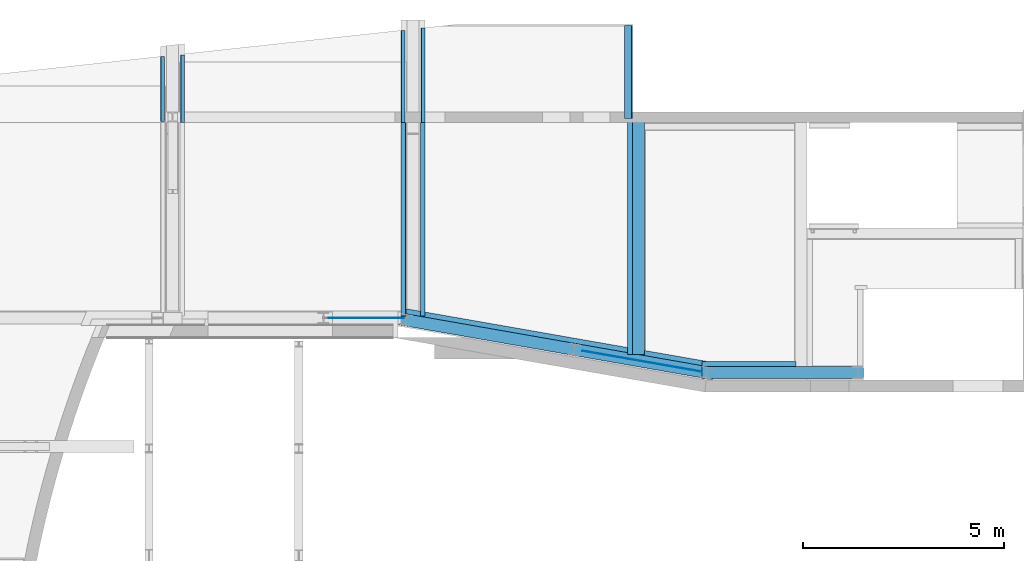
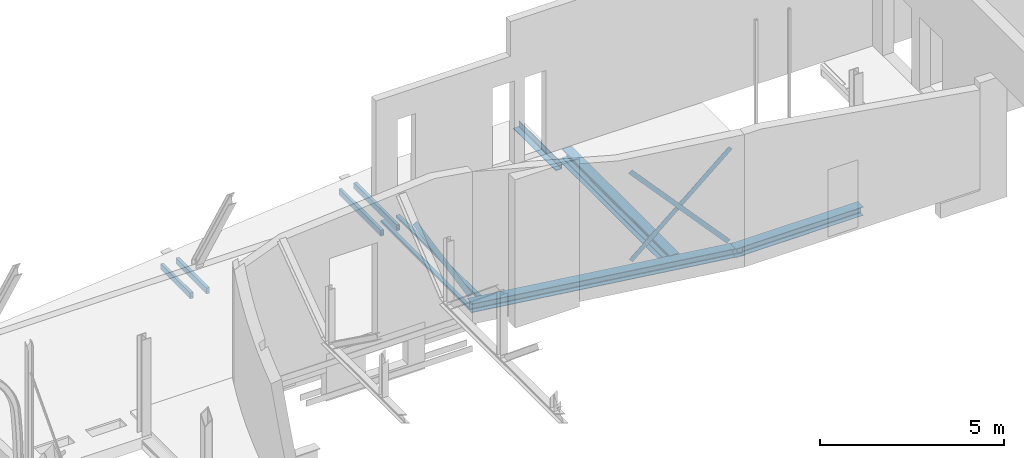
# One storey, part 25 of 38: 13 beams.
"""IFC2X3 building model written with IfcOpenShell, lengths in millimetres."""

from ifc_helpers import new_model, entity, si_unit, converted_unit, derived_unit, direction, frame, frame_2d, origin, place, context, subcontext, project, spatial, polyline, circle_curve, parameter, trimmed, segment, composite_curve, rectangle, i_section, outline, extrude, source, transform, mapped, material, material_list, type_object, type_shapes, element, save


model = new_model("IFC2X3")

# Units and contexts
model_context = context("Model", 3, precision=0.01, world=origin(), true_north=direction((6.12303176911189e-17, 1.0)))
body_context = subcontext(model_context, "Body", "Model", "MODEL_VIEW")
ifc_project = project(units=[si_unit("LENGTHUNIT", "METRE", prefix="MILLI"), si_unit("AREAUNIT", "SQUARE_METRE", prefix="MILLI"), si_unit("VOLUMEUNIT", "CUBIC_METRE"), converted_unit("PLANEANGLEUNIT", "DEGREE", entity("IfcRatioMeasure", 0.0174532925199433), si_unit("PLANEANGLEUNIT", "RADIAN"), dimensions=[0, 0, 0, 0, 0, 0, 0]), si_unit("MASSUNIT", "GRAM", prefix="KILO"), derived_unit("MASSDENSITYUNIT", [(si_unit("MASSUNIT", "GRAM", prefix="KILO"), 1), (si_unit("LENGTHUNIT", "METRE"), -3)]), derived_unit("MOMENTOFINERTIAUNIT", [(si_unit("LENGTHUNIT", "METRE"), 4)]), si_unit("TIMEUNIT", "SECOND"), si_unit("FREQUENCYUNIT", "HERTZ"), si_unit("THERMODYNAMICTEMPERATUREUNIT", "DEGREE_CELSIUS"), derived_unit("THERMALTRANSMITTANCEUNIT", [(si_unit("MASSUNIT", "GRAM", prefix="KILO"), 1), (si_unit("THERMODYNAMICTEMPERATUREUNIT", "KELVIN"), -1), (si_unit("TIMEUNIT", "SECOND"), -3)]), derived_unit("VOLUMETRICFLOWRATEUNIT", [(si_unit("LENGTHUNIT", "METRE"), 3), (si_unit("TIMEUNIT", "SECOND"), -1)]), si_unit("ELECTRICCURRENTUNIT", "AMPERE"), si_unit("ELECTRICVOLTAGEUNIT", "VOLT"), si_unit("POWERUNIT", "WATT"), si_unit("FORCEUNIT", "NEWTON", prefix="KILO"), si_unit("ILLUMINANCEUNIT", "LUX"), si_unit("LUMINOUSFLUXUNIT", "LUMEN"), si_unit("LUMINOUSINTENSITYUNIT", "CANDELA"), derived_unit("USERDEFINED", [(si_unit("MASSUNIT", "GRAM", prefix="KILO"), -1), (si_unit("LENGTHUNIT", "METRE"), -2), (si_unit("TIMEUNIT", "SECOND"), 3), (si_unit("LUMINOUSFLUXUNIT", "LUMEN"), 1)]), derived_unit("LINEARVELOCITYUNIT", [(si_unit("LENGTHUNIT", "METRE"), 1), (si_unit("TIMEUNIT", "SECOND"), -1)]), si_unit("PRESSUREUNIT", "PASCAL"), derived_unit("USERDEFINED", [(si_unit("LENGTHUNIT", "METRE"), -2), (si_unit("MASSUNIT", "GRAM", prefix="KILO"), 1), (si_unit("TIMEUNIT", "SECOND"), -2)]), derived_unit("LINEARFORCEUNIT", [(si_unit("MASSUNIT", "GRAM", prefix="KILO"), 1), (si_unit("LENGTHUNIT", "METRE"), 1), (si_unit("TIMEUNIT", "SECOND"), -2), (si_unit("LENGTHUNIT", "METRE"), -1)]), derived_unit("PLANARFORCEUNIT", [(si_unit("MASSUNIT", "GRAM", prefix="KILO"), 1), (si_unit("LENGTHUNIT", "METRE"), 1), (si_unit("TIMEUNIT", "SECOND"), -2), (si_unit("LENGTHUNIT", "METRE"), -2)])], contexts=[model_context])

# Site, building, storey
site_placement = place(None, origin())
site = spatial("IfcSite", under=ifc_project, at=site_placement, Name="Theater aan de Parade", CompositionType="ELEMENT")
building_placement = place(site_placement, origin())
building = spatial("IfcBuilding", under=site, at=building_placement, Name="Theater aan de Parade", CompositionType="ELEMENT")
storey_placement = place(building_placement, frame((0.0, 0.0, 12480.0)))
storey = spatial("IfcBuildingStorey", under=building, at=storey_placement, Name="03 derde verdieping", CompositionType="ELEMENT", Elevation=12480.0)

# Beams
ifc_material_1 = material(Name="00_PBT_MAT_staal_S355")
ifc_material_2 = material(Name="00_PBT_MAT_Lucht")
ifc_material_list_1 = material_list([ifc_material_2, ifc_material_1])
beam_type_1 = type_object("IfcBeamType", Name="28_PBT_SF_staal_H-profiel_met_ondergelaste_strip (void):S355_HE300A + ondergelaste strip d=12", PredefinedType="BEAM", material=ifc_material_list_1)
shared_shape_1 = source(origin(), body_context, "Body", "SweptSolid", [
    extrude(outline(composite_curve([segment(polyline([(131.0, -150.0), (145.0, -150.0)]), True, "CONTINUOUS"), segment(polyline([(145.0, -150.0), (145.0, 150.0)]), True, "CONTINUOUS"), segment(polyline([(145.0, 150.0), (131.0, 150.0)]), True, "CONTINUOUS"), segment(polyline([(131.0, 150.0), (131.0, 31.2499999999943)]), True, "CONTINUOUS"), segment(trimmed(circle_curve(frame_2d((104.0, 31.2499999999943), x_axis=(1.0, 0.0)), 27.0000000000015), [parameter(270.000000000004)], [parameter(0.0)], True, "PARAMETER"), False, "CONTINUOUS"), segment(polyline([(104.0, 4.24999999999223), (-104.0, 4.24999999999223)]), True, "CONTINUOUS"), segment(trimmed(circle_curve(frame_2d((-104.0, 31.2499999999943), x_axis=(0.0, -1.0)), 27.0000000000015), [parameter(270.000000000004)], [parameter(0.0)], True, "PARAMETER"), False, "CONTINUOUS"), segment(polyline([(-131.0, 31.2499999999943), (-131.0, 150.0)]), True, "CONTINUOUS"), segment(polyline([(-131.0, 150.0), (-145.0, 150.0)]), True, "CONTINUOUS"), segment(polyline([(-145.0, 150.0), (-145.0, -150.0)]), True, "CONTINUOUS"), segment(polyline([(-145.0, -150.0), (-131.0, -150.0)]), True, "CONTINUOUS"), segment(polyline([(-131.0, -150.0), (-131.0, -31.2500000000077)]), True, "CONTINUOUS"), segment(trimmed(circle_curve(frame_2d((-104.0, -31.2500000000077), x_axis=(-1.0, 0.0)), 27.0000000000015), [parameter(270.000000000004)], [parameter(0.0)], True, "PARAMETER"), False, "CONTINUOUS"), segment(polyline([(-104.0, -4.25000000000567), (104.0, -4.25000000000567)]), True, "CONTINUOUS"), segment(trimmed(circle_curve(frame_2d((104.0, -31.2500000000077), x_axis=(0.0, 1.0)), 27.0000000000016), [parameter(270.000000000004)], [parameter(0.0)], True, "PARAMETER"), False, "CONTINUOUS"), segment(polyline([(131.0, -31.2500000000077), (131.0, -150.0)]), True, "CONTINUOUS")], self_intersect=False)), frame((51847.3157943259, 44371.3402932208, 12360.0), z_axis=(0.985030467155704, -0.17238033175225, 0.0), x_axis=(0.0, 0.0, -1.0)), (0.0, 0.0, 1.0), 7920.00000000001),
    extrude(rectangle(XDim=9.99999999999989, YDim=419.999999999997, at=frame_2d((0.0, -4.2632564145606e-12), x_axis=(1.0, 0.0))), frame((51859.5055463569, 44435.1948932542, 12210.0), z_axis=(0.985030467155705, -0.172380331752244, 0.0), x_axis=(0.0, 0.0, -1.0)), (0.0, 0.0, 1.0), 7918.00000000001),
])
type_shapes(beam_type_1, [shared_shape_1])
beam_1_placement = place(storey_placement, frame((0.0, 0.0, -12480.0)))
element("IfcBeam", 1, at=beam_1_placement, inside=storey, type_object=beam_type_1, material=ifc_material_1, Name="28_PBT_SF_staal_H-profiel_met_ondergelaste_strip (void):S355_HE300A + ondergelaste strip d=12", ObjectType="28_PBT_SF_staal_H-profiel_met_ondergelaste_strip (void):S355_HE300A + ondergelaste strip d=12", context=body_context, shape_type="MappedRepresentation", body=[
    mapped(shared_shape_1, transform((0.0, 0.0, 0.0), scale=1.0)),
])
ifc_material_list_2 = material_list([ifc_material_2, ifc_material_1])
beam_type_2 = type_object("IfcBeamType", Name="28_PBT_SF_staal_H-profiel_met_ondergelaste_strip (void):S355_HE300A + ondergelaste strip d=12", PredefinedType="BEAM", material=ifc_material_list_2)
shared_shape_2 = source(origin(), body_context, "Body", "SweptSolid", [
    extrude(outline(composite_curve([segment(polyline([(131.0, -150.0), (145.0, -150.0)]), True, "CONTINUOUS"), segment(polyline([(145.0, -150.0), (145.0, 150.0)]), True, "CONTINUOUS"), segment(polyline([(145.0, 150.0), (131.0, 150.0)]), True, "CONTINUOUS"), segment(polyline([(131.0, 150.0), (131.0, 31.2499999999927)]), True, "CONTINUOUS"), segment(trimmed(circle_curve(frame_2d((104.0, 31.2499999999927), x_axis=(1.0, 0.0)), 27.0000000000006), [parameter(270.0)], [parameter(0.0)], True, "PARAMETER"), False, "CONTINUOUS"), segment(polyline([(104.0, 4.24999999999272), (-104.0, 4.24999999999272)]), True, "CONTINUOUS"), segment(trimmed(circle_curve(frame_2d((-104.0, 31.2499999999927), x_axis=(0.0, -1.0)), 27.0000000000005), [parameter(270.0)], [parameter(0.0)], True, "PARAMETER"), False, "CONTINUOUS"), segment(polyline([(-131.0, 31.2499999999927), (-131.0, 150.0)]), True, "CONTINUOUS"), segment(polyline([(-131.0, 150.0), (-145.0, 150.0)]), True, "CONTINUOUS"), segment(polyline([(-145.0, 150.0), (-145.0, -150.0)]), True, "CONTINUOUS"), segment(polyline([(-145.0, -150.0), (-131.0, -150.0)]), True, "CONTINUOUS"), segment(polyline([(-131.0, -150.0), (-131.0, -31.2500000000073)]), True, "CONTINUOUS"), segment(trimmed(circle_curve(frame_2d((-104.0, -31.2500000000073), x_axis=(-1.0, 0.0)), 27.0000000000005), [parameter(270.0)], [parameter(0.0)], True, "PARAMETER"), False, "CONTINUOUS"), segment(polyline([(-104.0, -4.25000000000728), (104.0, -4.25000000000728)]), True, "CONTINUOUS"), segment(trimmed(circle_curve(frame_2d((104.0, -31.2500000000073), x_axis=(0.0, 1.0)), 27.0000000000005), [parameter(270.0)], [parameter(0.0)], True, "PARAMETER"), False, "CONTINUOUS"), segment(polyline([(131.0, -31.2500000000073), (131.0, -150.0)]), True, "CONTINUOUS")], self_intersect=False)), frame((59364.3916864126, 43035.0, 12360.0), z_axis=(1.0, 0.0, 0.0), x_axis=(0.0, 0.0, -1.0)), (0.0, 0.0, 1.0), 4017.19316546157),
    extrude(rectangle(XDim=9.99999999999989, YDim=420.0, at=frame_2d((0.0, 4.33431068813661e-12), x_axis=(1.0, 0.0))), frame((59365.3916864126, 43100.0, 12210.0), z_axis=(1.0, 0.0, 0.0), x_axis=(0.0, 0.0, -1.0)), (0.0, 0.0, 1.0), 2340.19316546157),
])
type_shapes(beam_type_2, [shared_shape_2])
beam_2_placement = place(storey_placement, frame((0.0, 0.0, -12480.0)))
element("IfcBeam", 2, at=beam_2_placement, inside=storey, type_object=beam_type_2, material=ifc_material_1, Name="28_PBT_SF_staal_H-profiel_met_ondergelaste_strip (void):S355_HE300A + ondergelaste strip d=12", ObjectType="28_PBT_SF_staal_H-profiel_met_ondergelaste_strip (void):S355_HE300A + ondergelaste strip d=12", context=body_context, shape_type="MappedRepresentation", body=[
    mapped(shared_shape_2, transform((0.0, 0.0, 0.0), scale=1.0)),
])
beam_type_3 = type_object("IfcBeamType", Name="28_PBT_SF_staal_L-profiel:S355_L200x200x20", PredefinedType="NOTDEFINED")
beam_3_placement = place(storey_placement, frame((57580.2315633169, 49351.5644848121, 0.0), z_axis=(0.0, 0.0, 1.0), x_axis=(0.0, 1.0, 0.0)))
element("IfcBeam", 3, at=beam_3_placement, inside=storey, type_object=beam_type_3, material=ifc_material_1, Name="28_PBT_SF_staal_L-profiel:S355_L200x200x20", ObjectType="28_PBT_SF_staal_L-profiel:S355_L200x200x20", context=body_context, shape_type="SweptSolid", body=[
    extrude(outline(composite_curve([segment(polyline([(-124.444444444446, -75.5555555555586), (75.5555555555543, -75.5555555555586)]), True, "CONTINUOUS"), segment(polyline([(75.5555555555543, -75.5555555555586), (75.5555555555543, 124.444444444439)]), True, "CONTINUOUS"), segment(polyline([(75.5555555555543, 124.444444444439), (64.5555555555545, 124.444444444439)]), True, "CONTINUOUS"), segment(trimmed(circle_curve(frame_2d((64.555555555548, 115.444444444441), x_axis=(0.0, 1.0)), 8.99999999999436), [parameter(0.0)], [parameter(90.0000000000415)], True, "PARAMETER"), True, "CONTINUOUS"), segment(polyline([(55.5555555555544, 115.444444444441), (55.5555555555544, -37.5555555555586)]), True, "CONTINUOUS"), segment(trimmed(circle_curve(frame_2d((37.5555555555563, -37.5555555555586), x_axis=(1.0, 0.0)), 17.9999999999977), [parameter(269.999999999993)], [parameter(0.0)], True, "PARAMETER"), False, "CONTINUOUS"), segment(polyline([(37.5555555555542, -55.5555555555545), (-115.444444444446, -55.5555555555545)]), True, "CONTINUOUS"), segment(trimmed(circle_curve(frame_2d((-115.444444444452, -64.5555555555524), x_axis=(0.0, 1.0)), 8.99999999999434), [parameter(0.0)], [parameter(90.0000000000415)], True, "PARAMETER"), True, "CONTINUOUS"), segment(polyline([(-124.444444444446, -64.5555555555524), (-124.444444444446, -75.5555555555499)]), True, "CONTINUOUS")], self_intersect=False)), frame((0.0, 18.7555555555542, -549.444444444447), z_axis=(1.0, 0.0, 0.0), x_axis=(0.0, 0.0, -1.0)), (0.0, 0.0, 1.0), 2320.0),
])
ifc_material_3 = material(Name="00_PBT_MAT_staal_S235")
beam_type_4 = type_object("IfcBeamType", Name="28_PBT_SF_staal_koker:S235_K80x120x6.3", PredefinedType="NOTDEFINED")
beam_4_placement = place(storey_placement, frame((51879.2154342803, 44441.9749304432, 0.0), z_axis=(0.0, 0.0, 1.0), x_axis=(0.0, 1.0, 0.0)))
element("IfcBeam", 4, at=beam_4_placement, inside=storey, type_object=beam_type_4, material=ifc_material_3, Name="28_PBT_SF_staal_koker:S235_K80x120x6.3", ObjectType="28_PBT_SF_staal_koker:S235_K80x120x6.3", context=body_context, shape_type="SweptSolid", body=[
    extrude(outline(composite_curve([segment(trimmed(circle_curve(frame_2d((-50.5500000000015, -30.5499999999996), x_axis=(1.0, 0.0)), 9.45), [parameter(180.0)], [parameter(270.0)], True, "PARAMETER"), True, "CONTINUOUS"), segment(polyline([(-50.5500000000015, -40.0), (50.5500000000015, -40.0)]), True, "CONTINUOUS"), segment(trimmed(circle_curve(frame_2d((50.5500000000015, -30.5499999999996), x_axis=(1.0, 0.0)), 9.45), [parameter(270.0)], [parameter(0.0)], True, "PARAMETER"), True, "CONTINUOUS"), segment(polyline([(60.0, -30.5499999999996), (60.0, 30.5499999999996)]), True, "CONTINUOUS"), segment(trimmed(circle_curve(frame_2d((50.5500000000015, 30.5499999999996), x_axis=(1.0, 0.0)), 9.45), [parameter(3.56222124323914e-13)], [parameter(90.0000000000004)], True, "PARAMETER"), True, "CONTINUOUS"), segment(polyline([(50.5500000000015, 40.0), (-50.5500000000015, 40.0)]), True, "CONTINUOUS"), segment(trimmed(circle_curve(frame_2d((-50.5500000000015, 30.5499999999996), x_axis=(1.0, 0.0)), 9.45), [parameter(90.0000000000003)], [parameter(180.0)], True, "PARAMETER"), True, "CONTINUOUS"), segment(polyline([(-60.0, 30.5499999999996), (-60.0, -30.5499999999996)]), True, "CONTINUOUS")], self_intersect=False), holes=[composite_curve([segment(trimmed(circle_curve(frame_2d((47.3999999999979, 27.4000000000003), x_axis=(1.0, 0.0)), 6.3), [parameter(5.08888749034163e-14)], [parameter(90.0000000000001)], True, "PARAMETER"), False, "CONTINUOUS"), segment(polyline([(53.6999999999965, 27.4000000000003), (53.6999999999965, -27.4000000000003)]), True, "CONTINUOUS"), segment(trimmed(circle_curve(frame_2d((47.3999999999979, -27.4000000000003), x_axis=(1.0, 0.0)), 6.3), [parameter(269.999999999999)], [parameter(360.0)], True, "PARAMETER"), False, "CONTINUOUS"), segment(polyline([(47.3999999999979, -33.700000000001), (-47.3999999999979, -33.700000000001)]), True, "CONTINUOUS"), segment(trimmed(circle_curve(frame_2d((-47.3999999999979, -27.4000000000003), x_axis=(1.0, 0.0)), 6.3), [parameter(180.0)], [parameter(270.0)], True, "PARAMETER"), False, "CONTINUOUS"), segment(polyline([(-53.6999999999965, -27.4000000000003), (-53.6999999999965, 27.4000000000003)]), True, "CONTINUOUS"), segment(trimmed(circle_curve(frame_2d((-47.3999999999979, 27.4000000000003), x_axis=(1.0, 0.0)), 6.3), [parameter(89.9999999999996)], [parameter(180.0)], True, "PARAMETER"), False, "CONTINUOUS"), segment(polyline([(-47.3999999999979, 33.6999999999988), (47.3999999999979, 33.6999999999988)]), True, "CONTINUOUS")], self_intersect=False)]), frame((0.0, -60.0, -305.0), z_axis=(1.0, 0.0, 0.0), x_axis=(0.0, 1.0, 0.0)), (0.0, 0.0, 1.0), 4820.0230604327),
])
beam_5_placement = place(storey_placement, frame((52479.2154342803, 44441.9749304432, 0.0), z_axis=(0.0, 0.0, 1.0), x_axis=(0.0, 1.0, 0.0)))
element("IfcBeam", 5, at=beam_5_placement, inside=storey, type_object=beam_type_4, material=ifc_material_3, Name="28_PBT_SF_staal_koker:S235_K80x120x6.3", ObjectType="28_PBT_SF_staal_koker:S235_K80x120x6.3", context=body_context, shape_type="SweptSolid", body=[
    extrude(outline(composite_curve([segment(polyline([(-30.5499999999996, -60.0), (30.5499999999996, -60.0)]), True, "CONTINUOUS"), segment(trimmed(circle_curve(frame_2d((30.5499999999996, -50.5500000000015), x_axis=(0.0, 1.0)), 9.45), [parameter(180.0)], [parameter(270.0)], True, "PARAMETER"), True, "CONTINUOUS"), segment(polyline([(40.0, -50.5500000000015), (40.0, 50.5500000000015)]), True, "CONTINUOUS"), segment(trimmed(circle_curve(frame_2d((30.5499999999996, 50.5500000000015), x_axis=(0.0, 1.0)), 9.45), [parameter(270.0)], [parameter(360.0)], True, "PARAMETER"), True, "CONTINUOUS"), segment(polyline([(30.5499999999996, 60.0), (-30.5499999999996, 60.0)]), True, "CONTINUOUS"), segment(trimmed(circle_curve(frame_2d((-30.5499999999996, 50.5500000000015), x_axis=(0.0, 1.0)), 9.45), [parameter(0.0)], [parameter(90.0000000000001)], True, "PARAMETER"), True, "CONTINUOUS"), segment(polyline([(-40.0, 50.5500000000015), (-40.0, -50.5500000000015)]), True, "CONTINUOUS"), segment(trimmed(circle_curve(frame_2d((-30.5499999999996, -50.5500000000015), x_axis=(0.0, 1.0)), 9.45), [parameter(90.0)], [parameter(180.0)], True, "PARAMETER"), True, "CONTINUOUS")], self_intersect=False), holes=[composite_curve([segment(polyline([(33.6999999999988, 47.3999999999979), (33.6999999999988, -47.3999999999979)]), True, "CONTINUOUS"), segment(trimmed(circle_curve(frame_2d((27.4000000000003, -47.3999999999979), x_axis=(0.0, 1.0)), 6.3), [parameter(180.0)], [parameter(270.0)], True, "PARAMETER"), False, "CONTINUOUS"), segment(polyline([(27.4000000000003, -53.6999999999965), (-27.4000000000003, -53.6999999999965)]), True, "CONTINUOUS"), segment(trimmed(circle_curve(frame_2d((-27.4000000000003, -47.3999999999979), x_axis=(0.0, 1.0)), 6.3), [parameter(90.0)], [parameter(180.0)], True, "PARAMETER"), False, "CONTINUOUS"), segment(polyline([(-33.700000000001, -47.3999999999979), (-33.700000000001, 47.3999999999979)]), True, "CONTINUOUS"), segment(trimmed(circle_curve(frame_2d((-27.4000000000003, 47.3999999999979), x_axis=(0.0, 1.0)), 6.3), [parameter(4.07110999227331e-13)], [parameter(90.0000000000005)], True, "PARAMETER"), False, "CONTINUOUS"), segment(polyline([(-27.4000000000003, 53.6999999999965), (27.4000000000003, 53.6999999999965)]), True, "CONTINUOUS"), segment(trimmed(circle_curve(frame_2d((27.4000000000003, 47.3999999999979), x_axis=(0.0, 1.0)), 6.3), [parameter(270.0)], [parameter(360.0)], True, "PARAMETER"), False, "CONTINUOUS")], self_intersect=False)]), frame((0.0, 60.0, -305.0), z_axis=(1.0, 0.0, 0.0), x_axis=(0.0, 0.0, 1.0)), (0.0, 0.0, 1.0), 4820.02306043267),
])
beam_type_5 = type_object("IfcBeamType", Name="28_PBT_SF_staal_koker:S235_K100x200x8", PredefinedType="NOTDEFINED")
beam_6_placement = place(storey_placement, frame((51880.6076318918, 49261.9979908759, 0.0), z_axis=(0.0, 0.0, 1.0), x_axis=(0.0, 1.0, 0.0)))
element("IfcBeam", 6, at=beam_6_placement, inside=storey, type_object=beam_type_5, material=ifc_material_3, Name="28_PBT_SF_staal_koker:S235_K100x200x8", ObjectType="28_PBT_SF_staal_koker:S235_K100x200x8", context=body_context, shape_type="SweptSolid", body=[
    extrude(outline(composite_curve([segment(trimmed(circle_curve(frame_2d((-38.0, -88.0), x_axis=(1.0, 0.0)), 12.0), [parameter(180.0)], [parameter(270.0)], True, "PARAMETER"), True, "CONTINUOUS"), segment(polyline([(-38.0, -100.0), (38.0, -100.0)]), True, "CONTINUOUS"), segment(trimmed(circle_curve(frame_2d((38.0, -88.0), x_axis=(1.0, 0.0)), 12.0), [parameter(270.0)], [parameter(0.0)], True, "PARAMETER"), True, "CONTINUOUS"), segment(polyline([(50.0, -88.0), (50.0, 88.0)]), True, "CONTINUOUS"), segment(trimmed(circle_curve(frame_2d((38.0, 88.0), x_axis=(1.0, 0.0)), 12.0), [parameter(3.05333249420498e-13)], [parameter(90.0000000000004)], True, "PARAMETER"), True, "CONTINUOUS"), segment(polyline([(38.0, 100.0), (-38.0, 100.0)]), True, "CONTINUOUS"), segment(trimmed(circle_curve(frame_2d((-38.0, 88.0), x_axis=(1.0, 0.0)), 12.0), [parameter(90.0000000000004)], [parameter(180.0)], True, "PARAMETER"), True, "CONTINUOUS"), segment(polyline([(-50.0, 88.0), (-50.0, -88.0)]), True, "CONTINUOUS")], self_intersect=False), holes=[composite_curve([segment(trimmed(circle_curve(frame_2d((34.0, 84.0), x_axis=(1.0, 0.0)), 8.0), [parameter(360.0)], [parameter(90.0000000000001)], True, "PARAMETER"), False, "CONTINUOUS"), segment(polyline([(42.0, 84.0), (42.0, -84.0)]), True, "CONTINUOUS"), segment(trimmed(circle_curve(frame_2d((34.0, -84.0), x_axis=(1.0, 0.0)), 8.0), [parameter(270.0)], [parameter(360.0)], True, "PARAMETER"), False, "CONTINUOUS"), segment(polyline([(34.0, -92.0), (-34.0, -92.0)]), True, "CONTINUOUS"), segment(trimmed(circle_curve(frame_2d((-34.0, -84.0), x_axis=(1.0, 0.0)), 8.0), [parameter(180.0)], [parameter(270.0)], True, "PARAMETER"), False, "CONTINUOUS"), segment(polyline([(-42.0, -84.0), (-42.0, 84.0)]), True, "CONTINUOUS"), segment(trimmed(circle_curve(frame_2d((-34.0, 84.0), x_axis=(1.0, 0.0)), 8.0), [parameter(89.9999999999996)], [parameter(180.0)], True, "PARAMETER"), False, "CONTINUOUS"), segment(polyline([(-34.0, 92.0), (34.0, 92.0)]), True, "CONTINUOUS")], self_intersect=False)]), frame((0.0, -50.0, -705.0), z_axis=(1.0, 0.0, 0.0), x_axis=(0.0, 1.0, 0.0)), (0.0, 0.0, 1.0), 2285.0),
])
beam_7_placement = place(storey_placement, frame((52480.6076318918, 49261.9979908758, 0.0), z_axis=(0.0, 0.0, 1.0), x_axis=(0.0, 1.0, 0.0)))
element("IfcBeam", 7, at=beam_7_placement, inside=storey, type_object=beam_type_5, material=ifc_material_3, Name="28_PBT_SF_staal_koker:S235_K100x200x8", ObjectType="28_PBT_SF_staal_koker:S235_K100x200x8", context=body_context, shape_type="SweptSolid", body=[
    extrude(outline(composite_curve([segment(polyline([(-88.0, -50.0), (88.0, -50.0)]), True, "CONTINUOUS"), segment(trimmed(circle_curve(frame_2d((88.0, -38.0), x_axis=(0.0, 1.0)), 12.0), [parameter(180.0)], [parameter(270.0)], True, "PARAMETER"), True, "CONTINUOUS"), segment(polyline([(100.0, -38.0), (100.0, 38.0)]), True, "CONTINUOUS"), segment(trimmed(circle_curve(frame_2d((88.0, 38.0), x_axis=(0.0, 1.0)), 12.0), [parameter(270.0)], [parameter(360.0)], True, "PARAMETER"), True, "CONTINUOUS"), segment(polyline([(88.0, 50.0), (-88.0, 50.0)]), True, "CONTINUOUS"), segment(trimmed(circle_curve(frame_2d((-88.0, 38.0), x_axis=(0.0, 1.0)), 12.0), [parameter(0.0)], [parameter(90.0000000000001)], True, "PARAMETER"), True, "CONTINUOUS"), segment(polyline([(-100.0, 38.0), (-100.0, -38.0)]), True, "CONTINUOUS"), segment(trimmed(circle_curve(frame_2d((-88.0, -38.0), x_axis=(0.0, 1.0)), 12.0), [parameter(89.9999999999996)], [parameter(180.0)], True, "PARAMETER"), True, "CONTINUOUS")], self_intersect=False), holes=[composite_curve([segment(polyline([(92.0, 34.0), (92.0, -34.0)]), True, "CONTINUOUS"), segment(trimmed(circle_curve(frame_2d((84.0, -34.0), x_axis=(0.0, 1.0)), 8.0), [parameter(180.0)], [parameter(270.0)], True, "PARAMETER"), False, "CONTINUOUS"), segment(polyline([(84.0, -42.0), (-84.0, -42.0)]), True, "CONTINUOUS"), segment(trimmed(circle_curve(frame_2d((-84.0, -34.0), x_axis=(0.0, 1.0)), 8.0), [parameter(90.0)], [parameter(180.0)], True, "PARAMETER"), False, "CONTINUOUS"), segment(polyline([(-92.0, -34.0), (-92.0, 34.0)]), True, "CONTINUOUS"), segment(trimmed(circle_curve(frame_2d((-84.0, 34.0), x_axis=(0.0, 1.0)), 8.0), [parameter(3.56222124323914e-13)], [parameter(90.0000000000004)], True, "PARAMETER"), False, "CONTINUOUS"), segment(polyline([(-84.0, 42.0), (84.0, 42.0)]), True, "CONTINUOUS"), segment(trimmed(circle_curve(frame_2d((84.0, 34.0), x_axis=(0.0, 1.0)), 8.0), [parameter(270.0)], [parameter(1.01777749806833e-13)], True, "PARAMETER"), False, "CONTINUOUS")], self_intersect=False)]), frame((0.0, 50.0, -705.0), z_axis=(1.0, 0.0, 0.0), x_axis=(0.0, 0.0, 1.0)), (0.0, 0.0, 1.0), 2340.00000000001),
])
beam_8_placement = place(storey_placement, frame((45899.0610079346, 49282.1572875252, 0.0), z_axis=(0.0, 0.0, 1.0), x_axis=(0.0, 1.0, 0.0)))
element("IfcBeam", 8, at=beam_8_placement, inside=storey, type_object=beam_type_5, material=ifc_material_3, Name="28_PBT_SF_staal_koker:S235_K100x200x8", ObjectType="28_PBT_SF_staal_koker:S235_K100x200x8", context=body_context, shape_type="SweptSolid", body=[
    extrude(outline(composite_curve([segment(trimmed(circle_curve(frame_2d((-38.0, -88.0), x_axis=(1.0, 0.0)), 12.0), [parameter(180.0)], [parameter(270.0)], True, "PARAMETER"), True, "CONTINUOUS"), segment(polyline([(-38.0, -100.0), (38.0, -100.0)]), True, "CONTINUOUS"), segment(trimmed(circle_curve(frame_2d((38.0, -88.0), x_axis=(1.0, 0.0)), 12.0), [parameter(270.0)], [parameter(0.0)], True, "PARAMETER"), True, "CONTINUOUS"), segment(polyline([(50.0, -88.0), (50.0, 88.0)]), True, "CONTINUOUS"), segment(trimmed(circle_curve(frame_2d((38.0, 88.0), x_axis=(1.0, 0.0)), 12.0), [parameter(3.05333249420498e-13)], [parameter(90.0000000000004)], True, "PARAMETER"), True, "CONTINUOUS"), segment(polyline([(38.0, 100.0), (-38.0, 100.0)]), True, "CONTINUOUS"), segment(trimmed(circle_curve(frame_2d((-38.0, 88.0), x_axis=(1.0, 0.0)), 12.0), [parameter(90.0000000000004)], [parameter(180.0)], True, "PARAMETER"), True, "CONTINUOUS"), segment(polyline([(-50.0, 88.0), (-50.0, -88.0)]), True, "CONTINUOUS")], self_intersect=False), holes=[composite_curve([segment(trimmed(circle_curve(frame_2d((34.0, 84.0), x_axis=(1.0, 0.0)), 8.0), [parameter(360.0)], [parameter(90.0000000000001)], True, "PARAMETER"), False, "CONTINUOUS"), segment(polyline([(42.0, 84.0), (42.0, -84.0)]), True, "CONTINUOUS"), segment(trimmed(circle_curve(frame_2d((34.0, -84.0), x_axis=(1.0, 0.0)), 8.0), [parameter(270.0)], [parameter(360.0)], True, "PARAMETER"), False, "CONTINUOUS"), segment(polyline([(34.0, -92.0), (-34.0, -92.0)]), True, "CONTINUOUS"), segment(trimmed(circle_curve(frame_2d((-34.0, -84.0), x_axis=(1.0, 0.0)), 8.0), [parameter(180.0)], [parameter(270.0)], True, "PARAMETER"), False, "CONTINUOUS"), segment(polyline([(-42.0, -84.0), (-42.0, 84.0)]), True, "CONTINUOUS"), segment(trimmed(circle_curve(frame_2d((-34.0, 84.0), x_axis=(1.0, 0.0)), 8.0), [parameter(89.9999999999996)], [parameter(180.0)], True, "PARAMETER"), False, "CONTINUOUS"), segment(polyline([(-34.0, 92.0), (34.0, 92.0)]), True, "CONTINUOUS")], self_intersect=False)]), frame((0.0, -50.0, -705.0), z_axis=(1.0, 0.0, 0.0), x_axis=(0.0, 1.0, 0.0)), (0.0, 0.0, 1.0), 1615.0),
])
beam_9_placement = place(storey_placement, frame((46499.0610079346, 49261.9979908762, 0.0), z_axis=(0.0, 0.0, 1.0), x_axis=(0.0, 1.0, 0.0)))
element("IfcBeam", 9, at=beam_9_placement, inside=storey, type_object=beam_type_5, material=ifc_material_3, Name="28_PBT_SF_staal_koker:S235_K100x200x8", ObjectType="28_PBT_SF_staal_koker:S235_K100x200x8", context=body_context, shape_type="SweptSolid", body=[
    extrude(outline(composite_curve([segment(polyline([(-88.0, -50.0), (88.0, -50.0)]), True, "CONTINUOUS"), segment(trimmed(circle_curve(frame_2d((88.0, -38.0), x_axis=(0.0, 1.0)), 12.0), [parameter(180.0)], [parameter(270.0)], True, "PARAMETER"), True, "CONTINUOUS"), segment(polyline([(100.0, -38.0), (100.0, 38.0)]), True, "CONTINUOUS"), segment(trimmed(circle_curve(frame_2d((88.0, 38.0), x_axis=(0.0, 1.0)), 12.0), [parameter(270.0)], [parameter(360.0)], True, "PARAMETER"), True, "CONTINUOUS"), segment(polyline([(88.0, 50.0), (-88.0, 50.0)]), True, "CONTINUOUS"), segment(trimmed(circle_curve(frame_2d((-88.0, 38.0), x_axis=(0.0, 1.0)), 12.0), [parameter(0.0)], [parameter(90.0000000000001)], True, "PARAMETER"), True, "CONTINUOUS"), segment(polyline([(-100.0, 38.0), (-100.0, -38.0)]), True, "CONTINUOUS"), segment(trimmed(circle_curve(frame_2d((-88.0, -38.0), x_axis=(0.0, 1.0)), 12.0), [parameter(89.9999999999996)], [parameter(180.0)], True, "PARAMETER"), True, "CONTINUOUS")], self_intersect=False), holes=[composite_curve([segment(polyline([(92.0, 34.0), (92.0, -34.0)]), True, "CONTINUOUS"), segment(trimmed(circle_curve(frame_2d((84.0, -34.0), x_axis=(0.0, 1.0)), 8.0), [parameter(180.0)], [parameter(270.0)], True, "PARAMETER"), False, "CONTINUOUS"), segment(polyline([(84.0, -42.0), (-84.0, -42.0)]), True, "CONTINUOUS"), segment(trimmed(circle_curve(frame_2d((-84.0, -34.0), x_axis=(0.0, 1.0)), 8.0), [parameter(90.0)], [parameter(180.0)], True, "PARAMETER"), False, "CONTINUOUS"), segment(polyline([(-92.0, -34.0), (-92.0, 34.0)]), True, "CONTINUOUS"), segment(trimmed(circle_curve(frame_2d((-84.0, 34.0), x_axis=(0.0, 1.0)), 8.0), [parameter(3.56222124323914e-13)], [parameter(90.0000000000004)], True, "PARAMETER"), False, "CONTINUOUS"), segment(polyline([(-84.0, 42.0), (84.0, 42.0)]), True, "CONTINUOUS"), segment(trimmed(circle_curve(frame_2d((84.0, 34.0), x_axis=(0.0, 1.0)), 8.0), [parameter(270.0)], [parameter(1.01777749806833e-13)], True, "PARAMETER"), False, "CONTINUOUS")], self_intersect=False)]), frame((0.0, 50.0, -705.0), z_axis=(1.0, 0.0, 0.0), x_axis=(0.0, 0.0, 1.0)), (0.0, 0.0, 1.0), 1670.08342247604),
])
ifc_material_list_3 = material_list([ifc_material_2, ifc_material_1])
beam_type_6 = type_object("IfcBeamType", Name="28_PBT_SF_staal_H-profiel_met_ondergelaste_strip (void):S355_HE300B + ondergelaste strip d=12", PredefinedType="BEAM", material=ifc_material_list_3)
shared_shape_3 = source(origin(), body_context, "Body", "SweptSolid", [
    extrude(i_section(OverallWidth=300.000000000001, OverallDepth=300.000000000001, WebThickness=10.9999999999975, FlangeThickness=19.0, FilletRadius=27.0000000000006, at=frame_2d((8.65441052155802e-12, 0.0), x_axis=(1.0, 0.0))), frame((57787.0315633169, 43484.1695874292, 12365.0), z_axis=(0.0, 1.0, 0.0), x_axis=(-1.0, 0.0, 0.0)), (0.0, 0.0, 1.0), 5867.39489738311),
    extrude(rectangle(XDim=11.9999999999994, YDim=420.0, at=frame_2d((-4.33431068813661e-12, 1.0831335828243e-12), x_axis=(0.0, 1.0))), frame((57722.0315633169, 43485.1695874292, 12209.0), z_axis=(0.0, 1.0, 0.0), x_axis=(-1.0, 0.0, 0.0)), (0.0, 0.0, 1.0), 5865.39489738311),
])
type_shapes(beam_type_6, [shared_shape_3])
beam_10_placement = place(storey_placement, frame((0.0, 0.0, -12480.0)))
element("IfcBeam", 10, at=beam_10_placement, inside=storey, type_object=beam_type_6, material=ifc_material_1, Name="28_PBT_SF_staal_H-profiel_met_ondergelaste_strip (void):S355_HE300B + ondergelaste strip d=12", ObjectType="28_PBT_SF_staal_H-profiel_met_ondergelaste_strip (void):S355_HE300B + ondergelaste strip d=12", context=body_context, shape_type="MappedRepresentation", body=[
    mapped(shared_shape_3, transform((0.0, 0.0, 0.0), scale=1.0)),
])
ifc_material_4 = material(Name="00_PBT_MAT_staal")
beam_type_7 = type_object("IfcBeamType", Name="28_PBT_SF_staal_strip:strip 10x150", PredefinedType="NOTDEFINED")
beam_11_placement = place(storey_placement, frame((56189.2546732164, 43611.5009894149, -41.3291196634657), z_axis=(0.73660784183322, 0.108669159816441, -0.667532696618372), x_axis=(0.67632010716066, -0.118356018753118, 0.727037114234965)))
element("IfcBeam", 11, at=beam_11_placement, inside=storey, type_object=beam_type_7, material=ifc_material_4, Name="28_PBT_SF_staal_strip:strip 10x150", ObjectType="28_PBT_SF_staal_strip:strip 10x150", context=body_context, shape_type="SweptSolid", body=[
    extrude(rectangle(XDim=149.99999999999, YDim=9.99999999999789, at=frame_2d((-5.01287900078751e-12, 3.30402372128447e-12), x_axis=(0.0, 1.0))), frame((397.603192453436, 0.0, 0.0), z_axis=(1.0, 0.0, 0.0), x_axis=(0.0, -0.972231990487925, 0.234019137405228)), (0.0, 0.0, 1.0), 4212.17654872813),
])
beam_12_placement = place(storey_placement, frame((50073.4699872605, 44395.0, 3329.93601166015), z_axis=(0.86623246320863, 0.0, 0.499641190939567), x_axis=(0.499641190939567, 0.0, -0.86623246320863)))
element("IfcBeam", 12, at=beam_12_placement, inside=storey, type_object=beam_type_7, material=ifc_material_4, Name="28_PBT_SF_staal_strip:strip 10x150", ObjectType="28_PBT_SF_staal_strip:strip 10x150", context=body_context, shape_type="SweptSolid", body=[
    extrude(rectangle(XDim=149.999999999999, YDim=9.99999999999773, at=frame_2d((5.47117906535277e-13, 4.33164615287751e-12), x_axis=(1.0, 0.0))), frame((143.252424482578, 0.0, 0.0), z_axis=(1.0, 0.0, 0.0), x_axis=(0.0, 0.0, -1.0)), (0.0, 0.0, 1.0), 3476.21795016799),
])
beam_13_placement = place(storey_placement, frame((56173.1342298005, 43614.3220670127, 3498.36006531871), z_axis=(0.7354956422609, 0.109223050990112, 0.668667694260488), x_axis=(0.677529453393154, -0.118567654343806, -0.72587571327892)))
element("IfcBeam", 13, at=beam_13_placement, inside=storey, type_object=beam_type_7, material=ifc_material_4, Name="28_PBT_SF_staal_strip:strip 10x150", ObjectType="28_PBT_SF_staal_strip:strip 10x150", context=body_context, shape_type="SweptSolid", body=[
    extrude(rectangle(XDim=150.00000000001, YDim=10.0000000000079, at=frame_2d((4.78905803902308e-12, -5.01332308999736e-12), x_axis=(1.0, 0.0))), frame((397.603192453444, 0.0, 0.0), z_axis=(1.0, 0.0, 0.0), x_axis=(0.0, -0.234373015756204, 0.972146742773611)), (0.0, 0.0, 1.0), 4148.80070915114),
])

save(model, "model.ifc")
